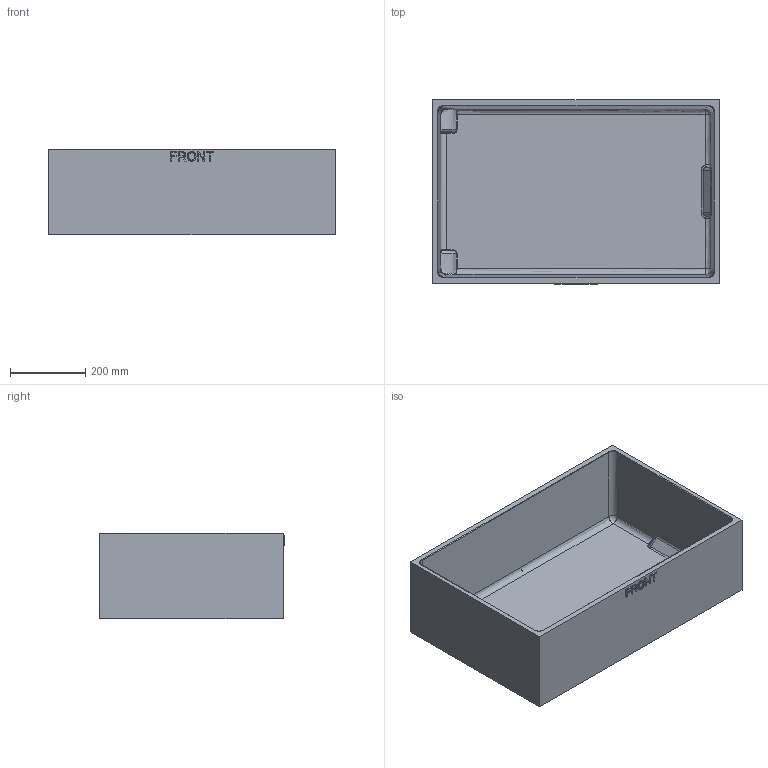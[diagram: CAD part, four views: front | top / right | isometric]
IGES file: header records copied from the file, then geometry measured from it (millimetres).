
Start section: Comment
Global section: file name: 2950-base_internal_tub.igs; native system:  By UGS Corp.; preprocessor: XPlus GENERIC/IGES 3.0; author: Author; organization: Title; date: 20100514.101146; units: millimetre
Bounding box: 762 x 492.12 x 228.6 mm (x, y, z)
Surface area: 1791449.4 mm2 (no closed solid volume)
Topology: 0 solids, 0 shells, 115 faces, 774 edges, 772 vertices
Faces by surface type: bspline 115
